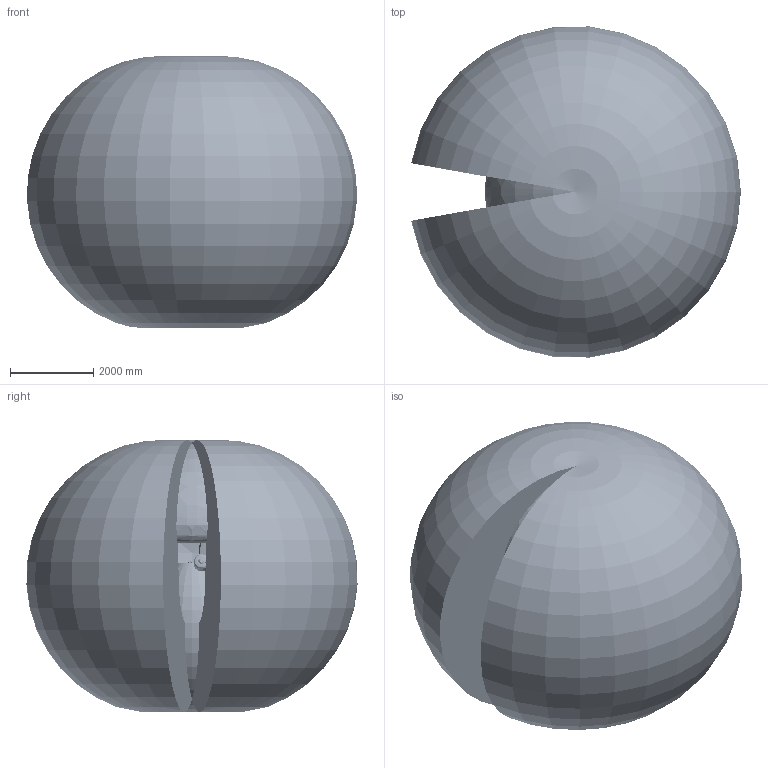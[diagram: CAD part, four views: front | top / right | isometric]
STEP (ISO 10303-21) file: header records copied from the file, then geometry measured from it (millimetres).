
FILE_DESCRIPTION (( 'STEP AP203' ), '1' );
FILE_NAME ('IRB6730S-LID-SW_130kg-400_OC_00_ASM_CAD.step', '2025-12-19T13:36:37', ( '' ), ( '' ), 'SwSTEP 2.0', 'SolidWorks 2024', '' );
FILE_SCHEMA (( 'CONFIG_CONTROL_DESIGN' ));
Length unit declared in the file: millimetre
Products named in the file (20): IRB6730S-LID-SW_130kg-400_OC_00_ASM_CAD; IRB6730S-LID_130kg-400_OC_00_Working-envelope; IRB6730S-ALL-OC_00_LINK03m_CABLE; IRB6730S_All-400_OC_01_LINK05_CAD; IRB6730S-LID_ALL-400-OC_00_LINK04_CABLE; IRB6730S-ALL-OC_00_LINK01_CABLE; IRB6730S-ALL-OC_00_LINK02m_CABLE; IRB6730S_All-400_OC_00_LINK04_CAD; IRB6730S_All_OC_00_LINK03_CAD; IRB6730S-LID-SW_ALL-OC_00_LINK03a_CABLE; IRB6730S-LID_130kg-400_OC_01_LINK06_CABLE; IRB6730S-ALL-OC_00_LINK03b_CABLE; IRB6730S_All_OC_00_LINK02_CAD; IRB6730S-LID_ALL-400-OC_00_LINK05_CABLE; IRB6730S-ALL-OC_00_LINK02_CABLE; IRB6730S_All_OC_00_CYL_CAD; IRB6730S-ALL-OC_00_LINK01m_CABLE; IRB6730S_All_OC_00_ROD_CAD; IRB6730S_All_OC_00_BASE_CAD; IRB6730S_All_OC_00_LINK01_CAD
Assembly tree (19 placements, depth 2):
  IRB6730S-LID-SW_130kg-400_OC_00_ASM_CAD
    IRB6730S_All_OC_00_BASE_CAD
    IRB6730S_All_OC_00_CYL_CAD
    IRB6730S_All_OC_00_LINK01_CAD
    IRB6730S_All_OC_00_LINK02_CAD
    IRB6730S_All_OC_00_LINK03_CAD
    IRB6730S_All_OC_00_ROD_CAD
    IRB6730S_All-400_OC_00_LINK04_CAD
    IRB6730S_All-400_OC_01_LINK05_CAD
    IRB6730S-LID_130kg-400_OC_01_LINK06_CABLE
    IRB6730S-ALL-OC_00_LINK01m_CABLE
    IRB6730S-ALL-OC_00_LINK02m_CABLE
    IRB6730S-ALL-OC_00_LINK03m_CABLE
    IRB6730S-ALL-OC_00_LINK01_CABLE
    IRB6730S-ALL-OC_00_LINK02_CABLE
    IRB6730S-LID-SW_ALL-OC_00_LINK03a_CABLE
    IRB6730S-ALL-OC_00_LINK03b_CABLE
    IRB6730S-LID_ALL-400-OC_00_LINK04_CABLE
    IRB6730S-LID_ALL-400-OC_00_LINK05_CABLE
    IRB6730S-LID_130kg-400_OC_00_Working-envelope
Bounding box: 7933.64 x 7963.95 x 6545.57 mm (x, y, z)
Volume: 203992211910.5 mm3; surface area: 286445823.1 mm2
Topology: 24 solids, 37 shells, 8692 faces, 22431 edges, 14548 vertices
Faces by surface type: plane 4610, cylinder 1794, cone 1014, bspline 996, torus 216, sphere 62
Full cylindrical faces by diameter (mm): 2.8 x3, 3 x1, 4.2 x4, 4.8 x3, 5 x29, 5.2 x4, 5.45 x1, 6 x12, 6.351 x2, 6.6 x4, 6.8 x28, 7 x4, 7.5 x2, 8 x12, 8.3 x2, 8.5 x41, 9 x4, 9.5 x4, 9.8 x4, 10 x25, 10.2 x32, 10.22 x34, 10.5 x2, 11 x2, 11.05 x2, 11.9 x4, 12 x52, 13 x4, 14 x23, 15 x1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
Entity records: 417866 total; most frequent: CARTESIAN_POINT 224703, ORIENTED_EDGE 40368, DIRECTION 35713, EDGE_CURVE 20184, VERTEX_POINT 13801, AXIS2_PLACEMENT_3D 13292, EDGE_LOOP 11139, FACE_OUTER_BOUND 9646
